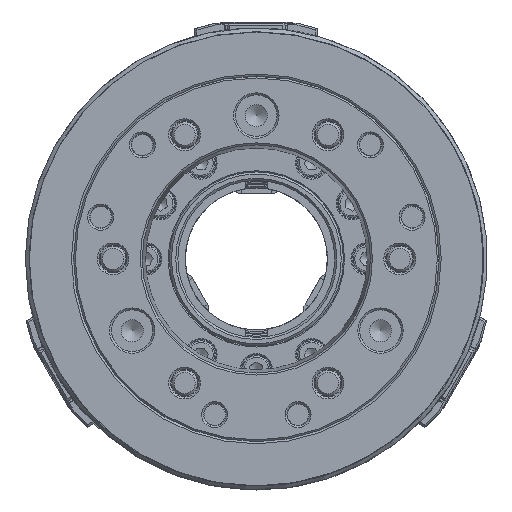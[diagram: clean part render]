
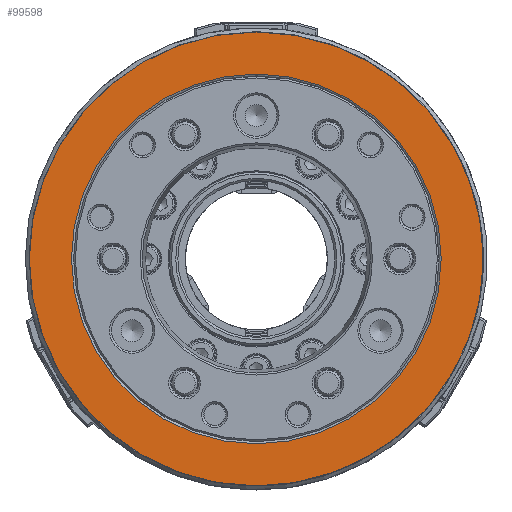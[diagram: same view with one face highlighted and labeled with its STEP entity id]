
A CAD part, front view. The second image highlights one B-rep face of the part: STEP entity #99598.
In plain terms, the highlighted planar face has unit normal (0, -1, 0).
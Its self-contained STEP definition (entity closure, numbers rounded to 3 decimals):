
#1206=FACE_BOUND('',#38701,.T.);
#3247=PLANE('',#105749);
#32975=FACE_OUTER_BOUND('',#38700,.T.);
#38700=EDGE_LOOP('',(#82666));
#38701=EDGE_LOOP('',(#82667));
#42058=CIRCLE('',#105750,105.611);
#42059=CIRCLE('',#105751,86.016);
#47801=VERTEX_POINT('',#158694);
#47802=VERTEX_POINT('',#158696);
#60281=EDGE_CURVE('',#47801,#47801,#42058,.T.);
#60282=EDGE_CURVE('',#47802,#47802,#42059,.T.);
#82666=ORIENTED_EDGE('',*,*,#60281,.F.);
#82667=ORIENTED_EDGE('',*,*,#60282,.F.);
#99598=ADVANCED_FACE('',(#32975,#1206),#3247,.F.);
#105749=AXIS2_PLACEMENT_3D('',#158693,#122601,#122602);
#105750=AXIS2_PLACEMENT_3D('',#158695,#122603,#122604);
#105751=AXIS2_PLACEMENT_3D('',#158697,#122605,#122606);
#122601=DIRECTION('center_axis',(0.,1.,0.));
#122602=DIRECTION('ref_axis',(0.,0.,1.));
#122603=DIRECTION('center_axis',(0.,1.,0.));
#122604=DIRECTION('ref_axis',(0.,0.,1.));
#122605=DIRECTION('center_axis',(0.,-1.,0.));
#122606=DIRECTION('ref_axis',(0.,0.,-1.));
#158693=CARTESIAN_POINT('Origin',(0.,0.,-107.6));
#158694=CARTESIAN_POINT('',(0.,0.,
-105.611));
#158695=CARTESIAN_POINT('Origin',(0.,0.,0.));
#158696=CARTESIAN_POINT('',(0.,0.,
86.016));
#158697=CARTESIAN_POINT('Origin',(0.,0.,0.));
